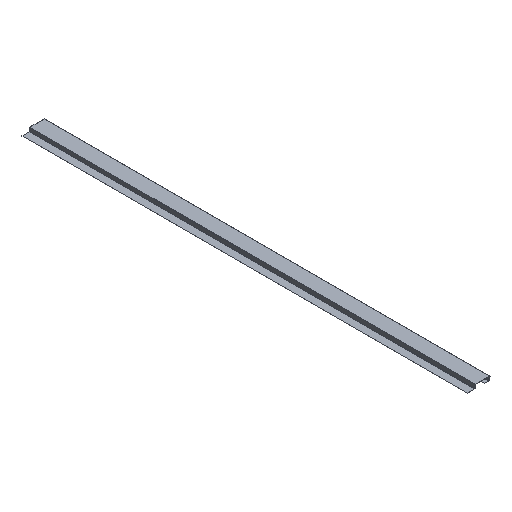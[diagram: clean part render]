
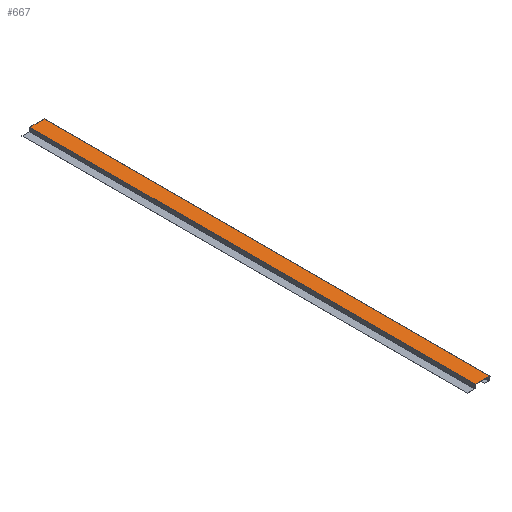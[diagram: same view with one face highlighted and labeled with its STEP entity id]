
A CAD part, isometric view. The second image highlights one B-rep face of the part: STEP entity #667.
In plain terms, the highlighted planar face has unit normal (0, 0, 1).
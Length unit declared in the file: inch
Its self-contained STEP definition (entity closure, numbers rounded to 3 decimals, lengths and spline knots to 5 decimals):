
#75=FACE_OUTER_BOUND('',#111,.T.);
#111=EDGE_LOOP('',(#517,#518,#519,#520));
#173=LINE('',#1091,#245);
#174=LINE('',#1094,#246);
#175=LINE('',#1096,#247);
#176=LINE('',#1097,#248);
#245=VECTOR('',#892,0.3937);
#246=VECTOR('',#895,0.3937);
#247=VECTOR('',#896,0.3937);
#248=VECTOR('',#897,0.3937);
#313=VERTEX_POINT('',#1087);
#314=VERTEX_POINT('',#1089);
#315=VERTEX_POINT('',#1093);
#316=VERTEX_POINT('',#1095);
#399=EDGE_CURVE('',#313,#314,#173,.T.);
#400=EDGE_CURVE('',#315,#313,#174,.T.);
#401=EDGE_CURVE('',#316,#314,#175,.T.);
#402=EDGE_CURVE('',#315,#316,#176,.T.);
#517=ORIENTED_EDGE('',*,*,#400,.T.);
#518=ORIENTED_EDGE('',*,*,#399,.T.);
#519=ORIENTED_EDGE('',*,*,#401,.F.);
#520=ORIENTED_EDGE('',*,*,#402,.F.);
#634=PLANE('',#742);
#667=ADVANCED_FACE('',(#75),#634,.T.);
#742=AXIS2_PLACEMENT_3D('',#1092,#893,#894);
#892=DIRECTION('',(0.,1.,0.));
#893=DIRECTION('center_axis',(0.,0.,1.));
#894=DIRECTION('ref_axis',(1.,0.,0.));
#895=DIRECTION('',(1.,0.,0.));
#896=DIRECTION('',(1.,0.,0.));
#897=DIRECTION('',(0.,1.,0.));
#1087=CARTESIAN_POINT('',(6.16725,0.,0.95152));
#1089=CARTESIAN_POINT('',(6.16725,120.,0.95152));
#1091=CARTESIAN_POINT('',(6.16725,0.,0.95152));
#1092=CARTESIAN_POINT('Origin',(2.27108,0.,0.95152));
#1093=CARTESIAN_POINT('',(2.27108,0.,0.95152));
#1094=CARTESIAN_POINT('',(2.27108,0.,0.95152));
#1095=CARTESIAN_POINT('',(2.27108,120.,0.95152));
#1096=CARTESIAN_POINT('',(2.27108,120.,0.95152));
#1097=CARTESIAN_POINT('',(2.27108,0.,0.95152));
